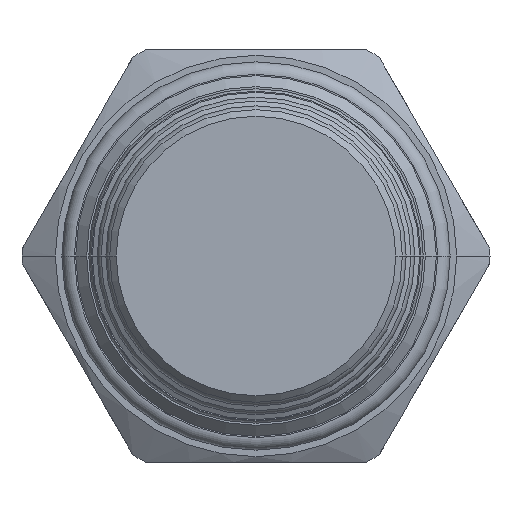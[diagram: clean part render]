
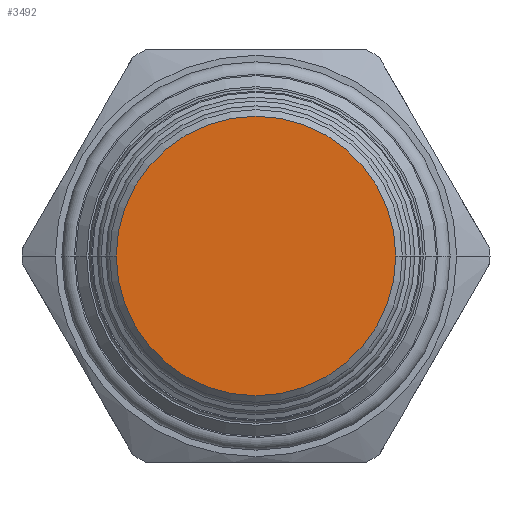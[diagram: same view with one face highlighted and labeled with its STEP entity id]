
A CAD part, front view. The second image highlights one B-rep face of the part: STEP entity #3492.
In plain terms, the highlighted planar face has unit normal (0, -1, 0).
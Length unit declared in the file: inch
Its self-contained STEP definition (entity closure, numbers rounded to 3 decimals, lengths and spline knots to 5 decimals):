
#1311=CARTESIAN_POINT('',(0.,-4.785,0.));
#1312=DIRECTION('',(0.,1.,0.));
#1313=DIRECTION('',(1.,0.,0.));
#1314=AXIS2_PLACEMENT_3D('',#1311,#1312,#1313);
#1316=CARTESIAN_POINT('',(0.,-4.785,0.));
#1317=DIRECTION('',(0.,1.,0.));
#1318=DIRECTION('',(-1.,0.,0.));
#1319=AXIS2_PLACEMENT_3D('',#1316,#1317,#1318);
#1757=CARTESIAN_POINT('',(-0.6375,-4.785,0.));
#1758=VERTEX_POINT('',#1757);
#1759=CARTESIAN_POINT('',(0.6375,-4.785,0.));
#1760=VERTEX_POINT('',#1759);
#3483=CARTESIAN_POINT('',(0.,-4.785,0.));
#3484=DIRECTION('',(0.,1.,0.));
#3485=DIRECTION('',(-1.,0.,0.));
#3486=AXIS2_PLACEMENT_3D('',#3483,#3484,#3485);
#3487=PLANE('',#3486);
#3488=ORIENTED_EDGE('',*,*,#3463,.T.);
#3489=ORIENTED_EDGE('',*,*,#3477,.T.);
#3490=EDGE_LOOP('',(#3488,#3489));
#3491=FACE_OUTER_BOUND('',#3490,.F.);
#3492=ADVANCED_FACE('',(#3491),#3487,.F.);
#1315=CIRCLE('',#1314,0.6375);
#1320=CIRCLE('',#1319,0.6375);
#3463=EDGE_CURVE('',#1760,#1758,#1315,.T.);
#3477=EDGE_CURVE('',#1758,#1760,#1320,.T.);
